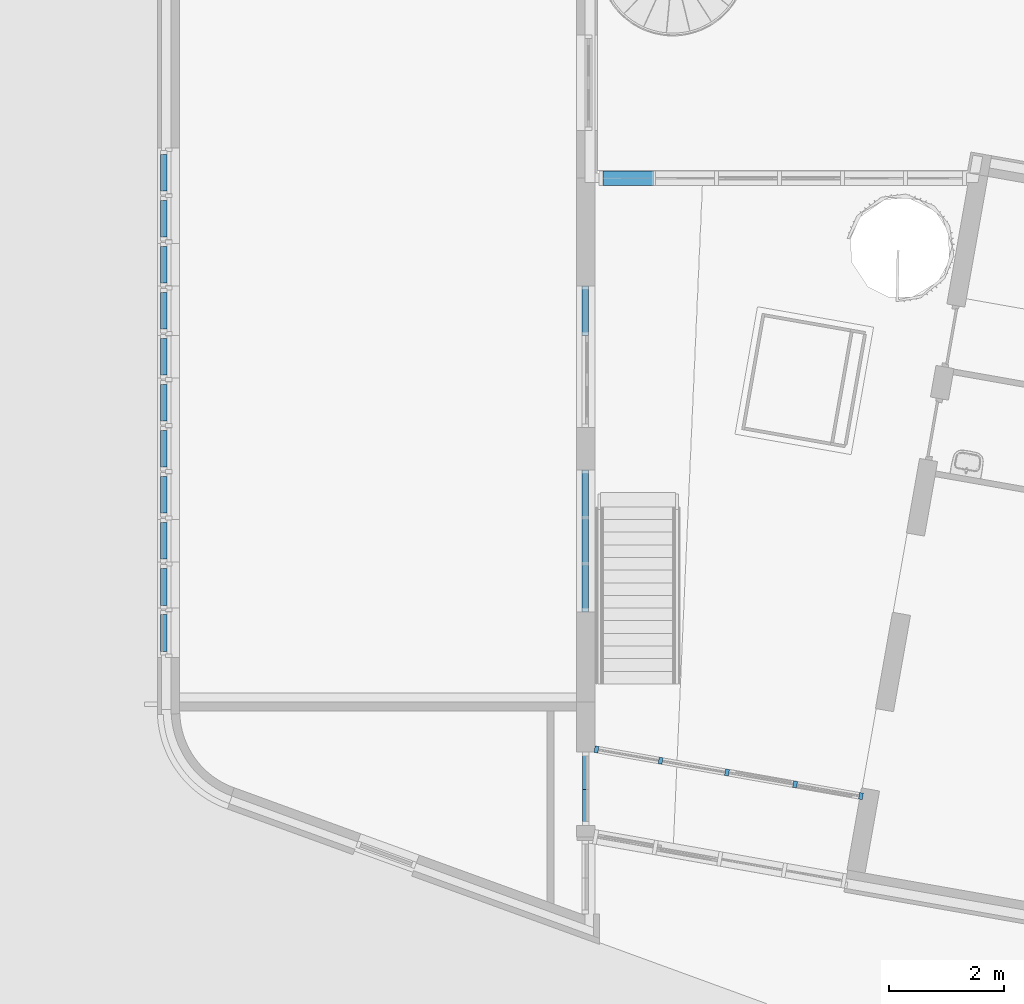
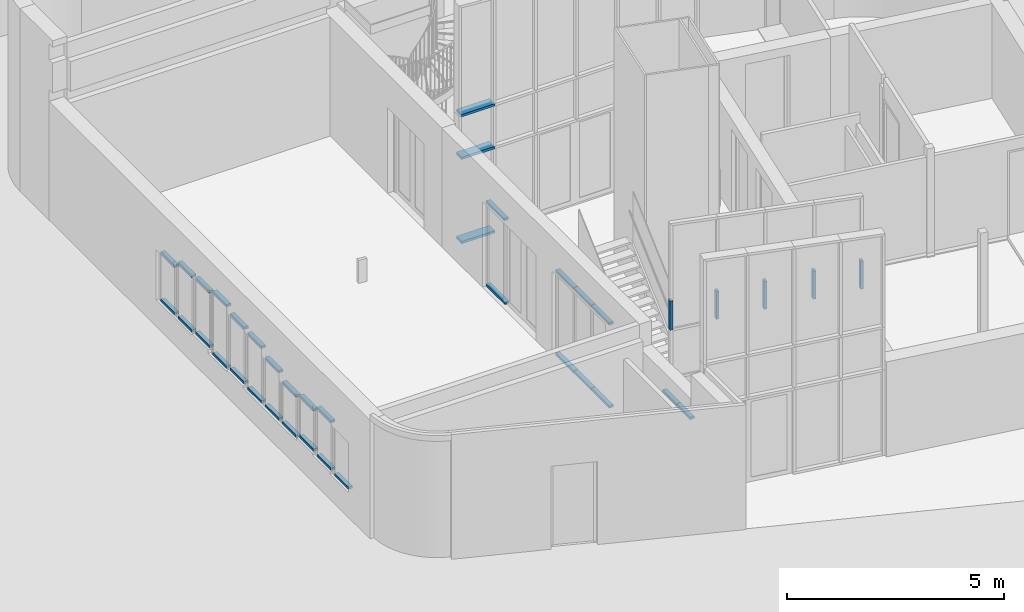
# One storey, part 7 of 21: 39 members, 16 elements without a shape of their own.
"""IFC2X3 building model written with IfcOpenShell, lengths in millimetres."""

from ifc_helpers import new_model, entity, si_unit, converted_unit, derived_unit, direction, frame, origin, origin_2d_with_axis, place, context, subcontext, project, spatial, rectangle, extrude, source, transform, mapped, material, type_object, type_shapes, element, aggregate, save


model = new_model("IFC2X3")

# Units and contexts
model_context = context("Model", 3, precision=0.01, world=origin(), true_north=direction((6.12303176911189e-17, 1.0)))
body_context = subcontext(model_context, "Body", "Model", "MODEL_VIEW")
ifc_project = project(units=[si_unit("LENGTHUNIT", "METRE", prefix="MILLI"), si_unit("AREAUNIT", "SQUARE_METRE"), si_unit("VOLUMEUNIT", "CUBIC_METRE"), converted_unit("PLANEANGLEUNIT", "DEGREE", entity("IfcRatioMeasure", 0.0174532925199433), si_unit("PLANEANGLEUNIT", "RADIAN"), dimensions=[0, 0, 0, 0, 0, 0, 0]), si_unit("MASSUNIT", "GRAM", prefix="KILO"), derived_unit("MASSDENSITYUNIT", [(si_unit("MASSUNIT", "GRAM", prefix="KILO"), 1), (si_unit("LENGTHUNIT", "METRE"), -3)]), derived_unit("MOMENTOFINERTIAUNIT", [(si_unit("LENGTHUNIT", "METRE"), 4)]), si_unit("TIMEUNIT", "SECOND"), si_unit("FREQUENCYUNIT", "HERTZ"), si_unit("THERMODYNAMICTEMPERATUREUNIT", "DEGREE_CELSIUS"), derived_unit("THERMALTRANSMITTANCEUNIT", [(si_unit("MASSUNIT", "GRAM", prefix="KILO"), 1), (si_unit("THERMODYNAMICTEMPERATUREUNIT", "KELVIN"), -1), (si_unit("TIMEUNIT", "SECOND"), -3)]), derived_unit("VOLUMETRICFLOWRATEUNIT", [(si_unit("LENGTHUNIT", "METRE"), 3), (si_unit("TIMEUNIT", "SECOND"), -1)]), si_unit("ELECTRICCURRENTUNIT", "AMPERE"), si_unit("ELECTRICVOLTAGEUNIT", "VOLT"), si_unit("POWERUNIT", "WATT"), si_unit("FORCEUNIT", "NEWTON", prefix="KILO"), si_unit("ILLUMINANCEUNIT", "LUX"), si_unit("LUMINOUSFLUXUNIT", "LUMEN"), si_unit("LUMINOUSINTENSITYUNIT", "CANDELA"), derived_unit("USERDEFINED", [(si_unit("MASSUNIT", "GRAM", prefix="KILO"), -1), (si_unit("LENGTHUNIT", "METRE"), -2), (si_unit("TIMEUNIT", "SECOND"), 3), (si_unit("LUMINOUSFLUXUNIT", "LUMEN"), 1)]), derived_unit("LINEARVELOCITYUNIT", [(si_unit("LENGTHUNIT", "METRE"), 1), (si_unit("TIMEUNIT", "SECOND"), -1)]), si_unit("PRESSUREUNIT", "PASCAL"), derived_unit("USERDEFINED", [(si_unit("LENGTHUNIT", "METRE"), -2), (si_unit("MASSUNIT", "GRAM", prefix="KILO"), 1), (si_unit("TIMEUNIT", "SECOND"), -2)]), derived_unit("LINEARFORCEUNIT", [(si_unit("MASSUNIT", "GRAM", prefix="KILO"), 1), (si_unit("LENGTHUNIT", "METRE"), 1), (si_unit("TIMEUNIT", "SECOND"), -2), (si_unit("LENGTHUNIT", "METRE"), -1)]), derived_unit("PLANARFORCEUNIT", [(si_unit("MASSUNIT", "GRAM", prefix="KILO"), 1), (si_unit("LENGTHUNIT", "METRE"), 1), (si_unit("TIMEUNIT", "SECOND"), -2), (si_unit("LENGTHUNIT", "METRE"), -2)])], contexts=[model_context])

# Site, building, storey
site_placement = place(None, origin())
site = spatial("IfcSite", under=ifc_project, at=site_placement, Name="<Kadaster Gemeente>;<Kadaster nummer>;<Kadaster sectie>", CompositionType="ELEMENT")
building_placement = place(site_placement, origin())
building = spatial("IfcBuilding", under=site, at=building_placement, Name="JRCZ Middelburg", CompositionType="ELEMENT")
storey_placement = place(building_placement, origin())
storey = spatial("IfcBuildingStorey", under=building, at=storey_placement, Name="00 begane grond", CompositionType="ELEMENT", Elevation=0.0)

# Curtain wall, members
curtain_wall_type_1 = type_object("IfcCurtainWallType", Name="Curtain Wall:vliesgevel B", PredefinedType="NOTDEFINED")
curtain_wall_1_placement = place(storey_placement, origin())
curtain_wall_1 = element("IfcCurtainWall", 1, at=curtain_wall_1_placement, inside=storey, type_object=curtain_wall_type_1, Name="Curtain Wall:vliesgevel B", ObjectType="Curtain Wall:vliesgevel B")
ifc_material_1 = material(Name="RBM_i2_binnenkozijn")
member_type_1 = type_object("IfcMemberType", Name="Rectangular Mullion:32_CWM_067x114", PredefinedType="MULLION", material=ifc_material_1)
shared_shape_1 = source(origin(), body_context, "Body", "SweptSolid", [
    extrude(rectangle(XDim=113.999999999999, YDim=67.0, at=origin_2d_with_axis()), frame((-33.5, 0.0, -820.0), z_axis=(0.0, 0.0, 1.0), x_axis=(0.0, -1.0, 0.0)), (0.0, 0.0, 1.0), 820.0),
])
type_shapes(member_type_1, [shared_shape_1])
member_1_placement = place(storey_placement, frame((17362.2500000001, 9178.37735087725, 4422.33333333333), z_axis=(0.0, 0.0, 1.0), x_axis=(-0.984807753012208, 0.173648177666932, 0.0)))
member_1 = element("IfcMember", 2, at=member_1_placement, type_object=member_type_1, material=ifc_material_1, Name="Rectangular Mullion:32_CWM_067x114", ObjectType="Rectangular Mullion:32_CWM_067x114", context=body_context, shape_type="MappedRepresentation", body=[
    mapped(shared_shape_1, transform((0.0, 0.0, 0.0), scale=1.0)),
])
member_type_2 = type_object("IfcMemberType", Name="Rectangular Mullion:32_CWM_067x114", PredefinedType="MULLION", material=ifc_material_1)
shared_shape_2 = source(origin(), body_context, "Body", "SweptSolid", [
    extrude(rectangle(XDim=113.999999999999, YDim=67.0, at=origin_2d_with_axis()), frame((-33.5, 0.0, -786.5), z_axis=(0.0, 0.0, 1.0), x_axis=(0.0, -1.0, 0.0)), (0.0, 0.0, 1.0), 786.5),
])
type_shapes(member_type_2, [shared_shape_2])
member_2_placement = place(storey_placement, frame((22027.0026406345, 8355.85560200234, 3635.83333333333), z_axis=(0.0, 0.0, -1.0), x_axis=(0.984807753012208, -0.173648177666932, 0.0)))
member_2 = element("IfcMember", 3, at=member_2_placement, type_object=member_type_2, material=ifc_material_1, Name="Rectangular Mullion:32_CWM_067x114", ObjectType="Rectangular Mullion:32_CWM_067x114", context=body_context, shape_type="MappedRepresentation", body=[
    mapped(shared_shape_2, transform((0.0, 0.0, 0.0), scale=1.0)),
])
member_type_3 = type_object("IfcMemberType", Name="Rectangular Mullion:32_CWM_067x114", PredefinedType="MULLION", material=ifc_material_1)
shared_shape_3 = source(origin(), body_context, "Body", "SweptSolid", [
    extrude(rectangle(XDim=113.999999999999, YDim=67.0, at=origin_2d_with_axis()), frame((0.0, 0.0, -786.5), z_axis=(0.0, 0.0, 1.0), x_axis=(0.0, -1.0, 0.0)), (0.0, 0.0, 1.0), 786.5),
])
type_shapes(member_type_3, [shared_shape_3])
member_3_placement = place(storey_placement, frame((19664.9206469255, 8772.35438813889, 3635.83333333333), z_axis=(0.0, 0.0, -1.0), x_axis=(0.984807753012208, -0.173648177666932, 0.0)))
member_3 = element("IfcMember", 4, at=member_3_placement, type_object=member_type_3, material=ifc_material_1, Name="Rectangular Mullion:32_CWM_067x114", ObjectType="Rectangular Mullion:32_CWM_067x114", context=body_context, shape_type="MappedRepresentation", body=[
    mapped(shared_shape_3, transform((0.0, 0.0, 0.0), scale=1.0)),
])
member_4_placement = place(storey_placement, frame((18510.4603234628, 8975.91689132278, 3635.83333333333), z_axis=(0.0, 0.0, -1.0), x_axis=(0.984807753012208, -0.173648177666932, 0.0)))
member_4 = element("IfcMember", 5, at=member_4_placement, type_object=member_type_3, material=ifc_material_1, Name="Rectangular Mullion:32_CWM_067x114", ObjectType="Rectangular Mullion:32_CWM_067x114", context=body_context, shape_type="MappedRepresentation", body=[
    mapped(shared_shape_3, transform((0.0, 0.0, 0.0), scale=1.0)),
])
member_5_placement = place(storey_placement, frame((20849.0391680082, 8563.56234451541, 3635.83333333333), z_axis=(0.0, 0.0, -1.0), x_axis=(0.984807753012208, -0.173648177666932, 0.0)))
member_5 = element("IfcMember", 6, at=member_5_placement, type_object=member_type_3, material=ifc_material_1, Name="Rectangular Mullion:32_CWM_067x114", ObjectType="Rectangular Mullion:32_CWM_067x114", context=body_context, shape_type="MappedRepresentation", body=[
    mapped(shared_shape_3, transform((0.0, 0.0, 0.0), scale=1.0)),
])
aggregate(curtain_wall_1, [member_1, member_2, member_3, member_4, member_5])

curtain_wall_type_2 = type_object("IfcCurtainWallType", Name="Curtain Wall:NLRS_32_CW_067x114", PredefinedType="NOTDEFINED")
curtain_wall_2_placement = place(storey_placement, origin())
curtain_wall_2 = element("IfcCurtainWall", 7, at=curtain_wall_2_placement, inside=storey, type_object=curtain_wall_type_2, Name="Curtain Wall:NLRS_32_CW_067x114", ObjectType="Curtain Wall:NLRS_32_CW_067x114")
member_type_4 = type_object("IfcMemberType", Name="Rectangular Mullion:32_CWM_067x114", PredefinedType="MULLION", material=ifc_material_1)
shared_shape_4 = source(origin(), body_context, "Body", "SweptSolid", [
    extrude(rectangle(XDim=113.999999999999, YDim=67.0, at=origin_2d_with_axis()), frame((-33.5, 0.0, -833.5000003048), z_axis=(0.0, 0.0, 1.0), x_axis=(0.0, -1.0, 0.0)), (0.0, 0.0, 1.0), 833.5000003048),
])
type_shapes(member_type_4, [shared_shape_4])
member_6_placement = place(storey_placement, frame((17203.0, 12400.0, 2400.0), z_axis=(0.0, 1.0, 0.0), x_axis=(0.0, 0.0, 1.0)))
member_6 = element("IfcMember", 8, at=member_6_placement, type_object=member_type_4, material=ifc_material_1, Name="Rectangular Mullion:32_CWM_067x114", ObjectType="Rectangular Mullion:32_CWM_067x114", context=body_context, shape_type="MappedRepresentation", body=[
    mapped(shared_shape_4, transform((0.0, 0.0, 0.0), scale=1.0)),
])
member_type_5 = type_object("IfcMemberType", Name="Rectangular Mullion:32_CWM_067x114", PredefinedType="MULLION", material=ifc_material_1)
shared_shape_5 = source(origin(), body_context, "Body", "SweptSolid", [
    extrude(rectangle(XDim=113.999999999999, YDim=67.0, at=origin_2d_with_axis()), frame((-33.5, 0.0, -800.0), z_axis=(0.0, 0.0, 1.0), x_axis=(0.0, -1.0, 0.0)), (0.0, 0.0, 1.0), 800.0),
])
type_shapes(member_type_5, [shared_shape_5])
member_7_placement = place(storey_placement, frame((17203.0, 13200.0, 2400.0), z_axis=(0.0, 1.0, 0.0), x_axis=(0.0, 0.0, 1.0)))
member_7 = element("IfcMember", 9, at=member_7_placement, type_object=member_type_5, material=ifc_material_1, Name="Rectangular Mullion:32_CWM_067x114", ObjectType="Rectangular Mullion:32_CWM_067x114", context=body_context, shape_type="MappedRepresentation", body=[
    mapped(shared_shape_5, transform((0.0, 0.0, 0.0), scale=1.0)),
])
member_type_6 = type_object("IfcMemberType", Name="Rectangular Mullion:32_CWM_067x114", PredefinedType="MULLION", material=ifc_material_1)
shared_shape_6 = source(origin(), body_context, "Body", "SweptSolid", [
    extrude(rectangle(XDim=113.999999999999, YDim=67.0, at=origin_2d_with_axis()), frame((-33.5, 0.0, -833.5000003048), z_axis=(0.0, 0.0, 1.0), x_axis=(0.0, -1.0, 0.0)), (0.0, 0.0, 1.0), 833.5000003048),
])
type_shapes(member_type_6, [shared_shape_6])
member_8_placement = place(storey_placement, frame((17203.0, 11566.4999996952, 0.0), z_axis=(0.0, -1.0, 0.0), x_axis=(0.0, 0.0, -1.0)))
member_8 = element("IfcMember", 10, at=member_8_placement, type_object=member_type_6, material=ifc_material_1, Name="Rectangular Mullion:32_CWM_067x114", ObjectType="Rectangular Mullion:32_CWM_067x114", context=body_context, shape_type="MappedRepresentation", body=[
    mapped(shared_shape_6, transform((0.0, 0.0, 0.0), scale=1.0)),
])
member_type_7 = type_object("IfcMemberType", Name="Rectangular Mullion:32_CWM_067x114", PredefinedType="MULLION", material=ifc_material_1)
shared_shape_7 = source(origin(), body_context, "Body", "SweptSolid", [
    extrude(rectangle(XDim=113.999999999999, YDim=67.0, at=origin_2d_with_axis()), frame((-33.5, 0.0, -800.0), z_axis=(0.0, 0.0, 1.0), x_axis=(0.0, -1.0, 0.0)), (0.0, 0.0, 1.0), 800.0),
])
type_shapes(member_type_7, [shared_shape_7])
member_9_placement = place(storey_placement, frame((17203.0, 12400.0, 0.0), z_axis=(0.0, -1.0, 0.0), x_axis=(0.0, 0.0, -1.0)))
member_9 = element("IfcMember", 11, at=member_9_placement, type_object=member_type_7, material=ifc_material_1, Name="Rectangular Mullion:32_CWM_067x114", ObjectType="Rectangular Mullion:32_CWM_067x114", context=body_context, shape_type="MappedRepresentation", body=[
    mapped(shared_shape_7, transform((0.0, 0.0, 0.0), scale=1.0)),
])
member_type_8 = type_object("IfcMemberType", Name="Rectangular Mullion:32_CWM_067x114", PredefinedType="MULLION", material=ifc_material_1)
shared_shape_8 = source(origin(), body_context, "Body", "SweptSolid", [
    extrude(rectangle(XDim=113.999999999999, YDim=67.0, at=origin_2d_with_axis()), frame((-33.5, 0.0, -833.4999996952), z_axis=(0.0, 0.0, 1.0), x_axis=(0.0, -1.0, 0.0)), (0.0, 0.0, 1.0), 833.4999996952),
])
type_shapes(member_type_8, [shared_shape_8])
member_10_placement = place(storey_placement, frame((17203.0, 13200.0, 0.0), z_axis=(0.0, -1.0, 0.0), x_axis=(0.0, 0.0, -1.0)))
member_10 = element("IfcMember", 12, at=member_10_placement, type_object=member_type_8, material=ifc_material_1, Name="Rectangular Mullion:32_CWM_067x114", ObjectType="Rectangular Mullion:32_CWM_067x114", context=body_context, shape_type="MappedRepresentation", body=[
    mapped(shared_shape_8, transform((0.0, 0.0, 0.0), scale=1.0)),
])
member_type_9 = type_object("IfcMemberType", Name="Rectangular Mullion:32_CWM_067x114", PredefinedType="MULLION", material=ifc_material_1)
shared_shape_9 = source(origin(), body_context, "Body", "SweptSolid", [
    extrude(rectangle(XDim=113.999999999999, YDim=67.0, at=origin_2d_with_axis()), frame((-33.5, 0.0, -833.4999996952), z_axis=(0.0, 0.0, 1.0), x_axis=(0.0, -1.0, 0.0)), (0.0, 0.0, 1.0), 833.4999996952),
])
type_shapes(member_type_9, [shared_shape_9])
member_11_placement = place(storey_placement, frame((17203.0, 14033.5, 2400.0), z_axis=(0.0, 1.0, 0.0), x_axis=(0.0, 0.0, 1.0)))
member_11 = element("IfcMember", 13, at=member_11_placement, type_object=member_type_9, material=ifc_material_1, Name="Rectangular Mullion:32_CWM_067x114", ObjectType="Rectangular Mullion:32_CWM_067x114", context=body_context, shape_type="MappedRepresentation", body=[
    mapped(shared_shape_9, transform((0.0, 0.0, 0.0), scale=1.0)),
])
aggregate(curtain_wall_2, [member_6, member_7, member_8, member_9, member_10, member_11])

curtain_wall_3_placement = place(storey_placement, origin())
curtain_wall_3 = element("IfcCurtainWall", 14, at=curtain_wall_3_placement, inside=storey, type_object=curtain_wall_type_2, Name="Curtain Wall:NLRS_32_CW_067x114", ObjectType="Curtain Wall:NLRS_32_CW_067x114")
member_type_10 = type_object("IfcMemberType", Name="Rectangular Mullion:32_CWM_067x114", PredefinedType="MULLION", material=ifc_material_1)
shared_shape_10 = source(origin(), body_context, "Body", "SweptSolid", [
    extrude(rectangle(XDim=113.999999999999, YDim=67.0, at=origin_2d_with_axis()), frame((-33.5, 0.0, -867.0), z_axis=(0.0, 0.0, 1.0), x_axis=(0.0, -1.0, 0.0)), (0.0, 0.0, 1.0), 867.0),
])
type_shapes(member_type_10, [shared_shape_10])
member_12_placement = place(storey_placement, frame((17203.0, 16366.5, 0.0), z_axis=(0.0, -1.0, 0.0), x_axis=(0.0, 0.0, -1.0)))
member_12 = element("IfcMember", 15, at=member_12_placement, type_object=member_type_10, material=ifc_material_1, Name="Rectangular Mullion:32_CWM_067x114", ObjectType="Rectangular Mullion:32_CWM_067x114", context=body_context, shape_type="MappedRepresentation", body=[
    mapped(shared_shape_10, transform((0.0, 0.0, 0.0), scale=1.0)),
])
member_type_11 = type_object("IfcMemberType", Name="Rectangular Mullion:32_CWM_067x114", PredefinedType="MULLION", material=ifc_material_1)
shared_shape_11 = source(origin(), body_context, "Body", "SweptSolid", [
    extrude(rectangle(XDim=113.999999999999, YDim=67.0, at=origin_2d_with_axis()), frame((-33.5, 0.0, -833.500000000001), z_axis=(0.0, 0.0, 1.0), x_axis=(0.0, -1.0, 0.0)), (0.0, 0.0, 1.0), 833.5),
])
type_shapes(member_type_11, [shared_shape_11])
member_13_placement = place(storey_placement, frame((17203.0, 17233.5, 2400.0), z_axis=(0.0, 1.0, 0.0), x_axis=(0.0, 0.0, 1.0)))
member_13 = element("IfcMember", 16, at=member_13_placement, type_object=member_type_11, material=ifc_material_1, Name="Rectangular Mullion:32_CWM_067x114", ObjectType="Rectangular Mullion:32_CWM_067x114", context=body_context, shape_type="MappedRepresentation", body=[
    mapped(shared_shape_11, transform((0.0, 0.0, 0.0), scale=1.0)),
])
aggregate(curtain_wall_3, [member_12, member_13])

curtain_wall_4_placement = place(storey_placement, origin())
curtain_wall_4 = element("IfcCurtainWall", 17, at=curtain_wall_4_placement, inside=storey, type_object=curtain_wall_type_2, Name="Curtain Wall:NLRS_32_CW_067x114", ObjectType="Curtain Wall:NLRS_32_CW_067x114")
member_type_12 = type_object("IfcMemberType", Name="Rectangular Mullion:32_CWM_067x114", PredefinedType="MULLION", material=ifc_material_1)
shared_shape_12 = source(origin(), body_context, "Body", "SweptSolid", [
    extrude(rectangle(XDim=113.999999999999, YDim=67.0, at=origin_2d_with_axis()), frame((-33.5, 0.0, -655.450461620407), z_axis=(0.0, 0.0, 1.0), x_axis=(0.0, -1.0, 0.0)), (0.0, 0.0, 1.0), 655.450461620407),
])
type_shapes(member_type_12, [shared_shape_12])
member_14_placement = place(storey_placement, frame((17209.2500000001, 9128.74078602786, 2000.0), z_axis=(0.0, 1.0, 0.0), x_axis=(0.0, 0.0, 1.0)))
member_14 = element("IfcMember", 18, at=member_14_placement, type_object=member_type_12, material=ifc_material_1, Name="Rectangular Mullion:32_CWM_067x114", ObjectType="Rectangular Mullion:32_CWM_067x114", context=body_context, shape_type="MappedRepresentation", body=[
    mapped(shared_shape_12, transform((0.0, 0.0, 0.0), scale=1.0)),
])
member_type_13 = type_object("IfcMemberType", Name="Rectangular Mullion:32_CWM_067x114", PredefinedType="MULLION", material=ifc_material_1)
shared_shape_13 = source(origin(), body_context, "Body", "SweptSolid", [
    extrude(rectangle(XDim=113.999999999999, YDim=67.0, at=origin_2d_with_axis()), frame((-33.5, 0.0, -624.549538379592), z_axis=(0.0, 0.0, 1.0), x_axis=(0.0, -1.0, 0.0)), (0.0, 0.0, 1.0), 624.549538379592),
])
type_shapes(member_type_13, [shared_shape_13])
member_15_placement = place(storey_placement, frame((17209.2500000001, 8473.29032440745, 2000.0), z_axis=(0.0, 1.0, 0.0), x_axis=(0.0, 0.0, 1.0)))
member_15 = element("IfcMember", 19, at=member_15_placement, type_object=member_type_13, material=ifc_material_1, Name="Rectangular Mullion:32_CWM_067x114", ObjectType="Rectangular Mullion:32_CWM_067x114", context=body_context, shape_type="MappedRepresentation", body=[
    mapped(shared_shape_13, transform((0.0, 0.0, 0.0), scale=1.0)),
])
aggregate(curtain_wall_4, [member_14, member_15])

# Curtain wall, member
curtain_wall_type_3 = type_object("IfcCurtainWallType", Name="Curtain Wall:NLRS_31_CW_Ontwerpkozijn 067x114 2", PredefinedType="NOTDEFINED")
curtain_wall_5_placement = place(storey_placement, origin())
curtain_wall_5 = element("IfcCurtainWall", 20, at=curtain_wall_5_placement, inside=storey, type_object=curtain_wall_type_3, Name="Curtain Wall:NLRS_31_CW_Ontwerpkozijn 067x114 2", ObjectType="Curtain Wall:NLRS_31_CW_Ontwerpkozijn 067x114 2")
ifc_material_2 = material(Name="RBM_a_kozijn")
member_type_14 = type_object("IfcMemberType", Name="Rectangular Mullion:31_CWM_067x114", PredefinedType="MULLION", material=ifc_material_2)
shared_shape_14 = source(origin(), body_context, "Body", "SweptSolid", [
    extrude(rectangle(XDim=113.999999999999, YDim=67.0, at=origin_2d_with_axis()), frame((-33.5, 57.0, -641.0), z_axis=(0.0, 0.0, 1.0), x_axis=(0.0, -1.0, 0.0)), (0.0, 0.0, 1.0), 640.999999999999),
])
type_shapes(member_type_14, [shared_shape_14])
member_16_placement = place(storey_placement, frame((9931.0, 13279.4999999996, 1900.0), z_axis=(0.0, -1.0, 0.0), x_axis=(0.0, 0.0, 1.0)))
member_16 = element("IfcMember", 21, at=member_16_placement, type_object=member_type_14, material=ifc_material_2, Name="Rectangular Mullion:31_CWM_067x114", ObjectType="Rectangular Mullion:31_CWM_067x114", context=body_context, shape_type="MappedRepresentation", body=[
    mapped(shared_shape_14, transform((0.0, 0.0, 0.0), scale=1.0)),
])

curtain_wall_6_placement = place(storey_placement, origin())
curtain_wall_6 = element("IfcCurtainWall", 22, at=curtain_wall_6_placement, inside=storey, type_object=curtain_wall_type_3, Name="Curtain Wall:NLRS_31_CW_Ontwerpkozijn 067x114 2", ObjectType="Curtain Wall:NLRS_31_CW_Ontwerpkozijn 067x114 2")
member_17_placement = place(storey_placement, frame((9931.0, 14879.4999999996, 2300.0), z_axis=(0.0, -1.0, 0.0), x_axis=(0.0, 0.0, 1.0)))
member_17 = element("IfcMember", 23, at=member_17_placement, type_object=member_type_14, material=ifc_material_2, Name="Rectangular Mullion:31_CWM_067x114", ObjectType="Rectangular Mullion:31_CWM_067x114", context=body_context, shape_type="MappedRepresentation", body=[
    mapped(shared_shape_14, transform((0.0, 0.0, 0.0), scale=1.0)),
])

curtain_wall_7_placement = place(storey_placement, origin())
curtain_wall_7 = element("IfcCurtainWall", 24, at=curtain_wall_7_placement, inside=storey, type_object=curtain_wall_type_3, Name="Curtain Wall:NLRS_31_CW_Ontwerpkozijn 067x114 2", ObjectType="Curtain Wall:NLRS_31_CW_Ontwerpkozijn 067x114 2")
member_18_placement = place(storey_placement, frame((9931.0, 11679.4999999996, 2150.0), z_axis=(0.0, -1.0, 0.0), x_axis=(0.0, 0.0, 1.0)))
member_18 = element("IfcMember", 25, at=member_18_placement, type_object=member_type_14, material=ifc_material_2, Name="Rectangular Mullion:31_CWM_067x114", ObjectType="Rectangular Mullion:31_CWM_067x114", context=body_context, shape_type="MappedRepresentation", body=[
    mapped(shared_shape_14, transform((0.0, 0.0, 0.0), scale=1.0)),
])

curtain_wall_8_placement = place(storey_placement, origin())
curtain_wall_8 = element("IfcCurtainWall", 26, at=curtain_wall_8_placement, inside=storey, type_object=curtain_wall_type_3, Name="Curtain Wall:NLRS_31_CW_Ontwerpkozijn 067x114 2", ObjectType="Curtain Wall:NLRS_31_CW_Ontwerpkozijn 067x114 2")
member_19_placement = place(storey_placement, frame((9931.0, 12479.4999999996, 2000.0), z_axis=(0.0, -1.0, 0.0), x_axis=(0.0, 0.0, 1.0)))
member_19 = element("IfcMember", 27, at=member_19_placement, type_object=member_type_14, material=ifc_material_2, Name="Rectangular Mullion:31_CWM_067x114", ObjectType="Rectangular Mullion:31_CWM_067x114", context=body_context, shape_type="MappedRepresentation", body=[
    mapped(shared_shape_14, transform((0.0, 0.0, 0.0), scale=1.0)),
])

curtain_wall_9_placement = place(storey_placement, origin())
curtain_wall_9 = element("IfcCurtainWall", 28, at=curtain_wall_9_placement, inside=storey, type_object=curtain_wall_type_3, Name="Curtain Wall:NLRS_31_CW_Ontwerpkozijn 067x114 2", ObjectType="Curtain Wall:NLRS_31_CW_Ontwerpkozijn 067x114 2")
member_20_placement = place(storey_placement, frame((9931.0, 14079.4999999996, 2100.0), z_axis=(0.0, -1.0, 0.0), x_axis=(0.0, 0.0, 1.0)))
member_20 = element("IfcMember", 29, at=member_20_placement, type_object=member_type_14, material=ifc_material_2, Name="Rectangular Mullion:31_CWM_067x114", ObjectType="Rectangular Mullion:31_CWM_067x114", context=body_context, shape_type="MappedRepresentation", body=[
    mapped(shared_shape_14, transform((0.0, 0.0, 0.0), scale=1.0)),
])

curtain_wall_10_placement = place(storey_placement, origin())
curtain_wall_10 = element("IfcCurtainWall", 30, at=curtain_wall_10_placement, inside=storey, type_object=curtain_wall_type_3, Name="Curtain Wall:NLRS_31_CW_Ontwerpkozijn 067x114 2", ObjectType="Curtain Wall:NLRS_31_CW_Ontwerpkozijn 067x114 2")
member_21_placement = place(storey_placement, frame((9931.0, 15679.4999999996, 2350.0), z_axis=(0.0, -1.0, 0.0), x_axis=(0.0, 0.0, 1.0)))
member_21 = element("IfcMember", 31, at=member_21_placement, type_object=member_type_14, material=ifc_material_2, Name="Rectangular Mullion:31_CWM_067x114", ObjectType="Rectangular Mullion:31_CWM_067x114", context=body_context, shape_type="MappedRepresentation", body=[
    mapped(shared_shape_14, transform((0.0, 0.0, 0.0), scale=1.0)),
])

curtain_wall_11_placement = place(storey_placement, origin())
curtain_wall_11 = element("IfcCurtainWall", 32, at=curtain_wall_11_placement, inside=storey, type_object=curtain_wall_type_3, Name="Curtain Wall:NLRS_31_CW_Ontwerpkozijn 067x114 2", ObjectType="Curtain Wall:NLRS_31_CW_Ontwerpkozijn 067x114 2")
member_22_placement = place(storey_placement, frame((9931.0, 16479.4999999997, 2500.0), z_axis=(0.0, -1.0, 0.0), x_axis=(0.0, 0.0, 1.0)))
member_22 = element("IfcMember", 33, at=member_22_placement, type_object=member_type_14, material=ifc_material_2, Name="Rectangular Mullion:31_CWM_067x114", ObjectType="Rectangular Mullion:31_CWM_067x114", context=body_context, shape_type="MappedRepresentation", body=[
    mapped(shared_shape_14, transform((0.0, 0.0, 0.0), scale=1.0)),
])

curtain_wall_12_placement = place(storey_placement, origin())
curtain_wall_12 = element("IfcCurtainWall", 34, at=curtain_wall_12_placement, inside=storey, type_object=curtain_wall_type_3, Name="Curtain Wall:NLRS_31_CW_Ontwerpkozijn 067x114 2", ObjectType="Curtain Wall:NLRS_31_CW_Ontwerpkozijn 067x114 2")
member_23_placement = place(storey_placement, frame((9931.0, 18079.4999999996, 2350.0), z_axis=(0.0, -1.0, 0.0), x_axis=(0.0, 0.0, 1.0)))
member_23 = element("IfcMember", 35, at=member_23_placement, type_object=member_type_14, material=ifc_material_2, Name="Rectangular Mullion:31_CWM_067x114", ObjectType="Rectangular Mullion:31_CWM_067x114", context=body_context, shape_type="MappedRepresentation", body=[
    mapped(shared_shape_14, transform((0.0, 0.0, 0.0), scale=1.0)),
])

curtain_wall_13_placement = place(storey_placement, origin())
curtain_wall_13 = element("IfcCurtainWall", 36, at=curtain_wall_13_placement, inside=storey, type_object=curtain_wall_type_3, Name="Curtain Wall:NLRS_31_CW_Ontwerpkozijn 067x114 2", ObjectType="Curtain Wall:NLRS_31_CW_Ontwerpkozijn 067x114 2")
member_24_placement = place(storey_placement, frame((9931.0, 18879.4999999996, 2150.0), z_axis=(0.0, -1.0, 0.0), x_axis=(0.0, 0.0, 1.0)))
member_24 = element("IfcMember", 37, at=member_24_placement, type_object=member_type_14, material=ifc_material_2, Name="Rectangular Mullion:31_CWM_067x114", ObjectType="Rectangular Mullion:31_CWM_067x114", context=body_context, shape_type="MappedRepresentation", body=[
    mapped(shared_shape_14, transform((0.0, 0.0, 0.0), scale=1.0)),
])

curtain_wall_14_placement = place(storey_placement, origin())
curtain_wall_14 = element("IfcCurtainWall", 38, at=curtain_wall_14_placement, inside=storey, type_object=curtain_wall_type_3, Name="Curtain Wall:NLRS_31_CW_Ontwerpkozijn 067x114 2", ObjectType="Curtain Wall:NLRS_31_CW_Ontwerpkozijn 067x114 2")
member_25_placement = place(storey_placement, frame((9931.0, 17279.4999999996, 2400.0), z_axis=(0.0, -1.0, 0.0), x_axis=(0.0, 0.0, 1.0)))
member_25 = element("IfcMember", 39, at=member_25_placement, type_object=member_type_14, material=ifc_material_2, Name="Rectangular Mullion:31_CWM_067x114", ObjectType="Rectangular Mullion:31_CWM_067x114", context=body_context, shape_type="MappedRepresentation", body=[
    mapped(shared_shape_14, transform((0.0, 0.0, 0.0), scale=1.0)),
])

# Member
member_type_15 = type_object("IfcMemberType", Name="Rectangular Mullion:31_CWM_067x114", PredefinedType="MULLION", material=ifc_material_2)
shared_shape_15 = source(origin(), body_context, "Body", "SweptSolid", [
    extrude(rectangle(XDim=113.999999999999, YDim=67.0, at=origin_2d_with_axis()), frame((-33.5, 57.0, -641.0), z_axis=(0.0, 0.0, 1.0), x_axis=(0.0, -1.0, 0.0)), (0.0, 0.0, 1.0), 640.999999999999),
])
type_shapes(member_type_15, [shared_shape_15])
member_26_placement = place(storey_placement, frame((9931.0, 13920.4999999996, 700.0), z_axis=(0.0, 1.0, 0.0), x_axis=(0.0, 0.0, -1.0)))
member_26 = element("IfcMember", 40, at=member_26_placement, type_object=member_type_15, material=ifc_material_2, Name="Rectangular Mullion:31_CWM_067x114", ObjectType="Rectangular Mullion:31_CWM_067x114", context=body_context, shape_type="MappedRepresentation", body=[
    mapped(shared_shape_15, transform((0.0, 0.0, 0.0), scale=1.0)),
])

aggregate(curtain_wall_5, [member_16, member_26])

member_27_placement = place(storey_placement, frame((9931.0, 15520.4999999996, 700.0), z_axis=(0.0, 1.0, 0.0), x_axis=(0.0, 0.0, -1.0)))
member_27 = element("IfcMember", 41, at=member_27_placement, type_object=member_type_15, material=ifc_material_2, Name="Rectangular Mullion:31_CWM_067x114", ObjectType="Rectangular Mullion:31_CWM_067x114", context=body_context, shape_type="MappedRepresentation", body=[
    mapped(shared_shape_15, transform((0.0, 0.0, 0.0), scale=1.0)),
])

aggregate(curtain_wall_6, [member_17, member_27])

# Curtain wall, member
curtain_wall_15_placement = place(storey_placement, origin())
curtain_wall_15 = element("IfcCurtainWall", 42, at=curtain_wall_15_placement, inside=storey, type_object=curtain_wall_type_3, Name="Curtain Wall:NLRS_31_CW_Ontwerpkozijn 067x114 2", ObjectType="Curtain Wall:NLRS_31_CW_Ontwerpkozijn 067x114 2")
member_28_placement = place(storey_placement, frame((9931.0, 11520.4999999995, 700.0), z_axis=(0.0, 1.0, 0.0), x_axis=(0.0, 0.0, -1.0)))
member_28 = element("IfcMember", 43, at=member_28_placement, type_object=member_type_15, material=ifc_material_2, Name="Rectangular Mullion:31_CWM_067x114", ObjectType="Rectangular Mullion:31_CWM_067x114", context=body_context, shape_type="MappedRepresentation", body=[
    mapped(shared_shape_15, transform((0.0, 0.0, 0.0), scale=1.0)),
])
aggregate(curtain_wall_15, [member_28])

# Member
member_29_placement = place(storey_placement, frame((9931.0, 12320.4999999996, 750.0), z_axis=(0.0, 1.0, 0.0), x_axis=(0.0, 0.0, -1.0)))
member_29 = element("IfcMember", 44, at=member_29_placement, type_object=member_type_15, material=ifc_material_2, Name="Rectangular Mullion:31_CWM_067x114", ObjectType="Rectangular Mullion:31_CWM_067x114", context=body_context, shape_type="MappedRepresentation", body=[
    mapped(shared_shape_15, transform((0.0, 0.0, 0.0), scale=1.0)),
])

aggregate(curtain_wall_7, [member_18, member_29])

member_30_placement = place(storey_placement, frame((9931.0, 13120.4999999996, 800.0), z_axis=(0.0, 1.0, 0.0), x_axis=(0.0, 0.0, -1.0)))
member_30 = element("IfcMember", 45, at=member_30_placement, type_object=member_type_15, material=ifc_material_2, Name="Rectangular Mullion:31_CWM_067x114", ObjectType="Rectangular Mullion:31_CWM_067x114", context=body_context, shape_type="MappedRepresentation", body=[
    mapped(shared_shape_15, transform((0.0, 0.0, 0.0), scale=1.0)),
])

aggregate(curtain_wall_8, [member_19, member_30])

member_31_placement = place(storey_placement, frame((9931.0, 14720.4999999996, 700.0), z_axis=(0.0, 1.0, 0.0), x_axis=(0.0, 0.0, -1.0)))
member_31 = element("IfcMember", 46, at=member_31_placement, type_object=member_type_15, material=ifc_material_2, Name="Rectangular Mullion:31_CWM_067x114", ObjectType="Rectangular Mullion:31_CWM_067x114", context=body_context, shape_type="MappedRepresentation", body=[
    mapped(shared_shape_15, transform((0.0, 0.0, 0.0), scale=1.0)),
])

aggregate(curtain_wall_9, [member_20, member_31])

member_32_placement = place(storey_placement, frame((9931.0, 16320.4999999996, 750.0), z_axis=(0.0, 1.0, 0.0), x_axis=(0.0, 0.0, -1.0)))
member_32 = element("IfcMember", 47, at=member_32_placement, type_object=member_type_15, material=ifc_material_2, Name="Rectangular Mullion:31_CWM_067x114", ObjectType="Rectangular Mullion:31_CWM_067x114", context=body_context, shape_type="MappedRepresentation", body=[
    mapped(shared_shape_15, transform((0.0, 0.0, 0.0), scale=1.0)),
])

aggregate(curtain_wall_10, [member_21, member_32])

member_33_placement = place(storey_placement, frame((9931.0, 17120.4999999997, 700.0), z_axis=(0.0, 1.0, 0.0), x_axis=(0.0, 0.0, -1.0)))
member_33 = element("IfcMember", 48, at=member_33_placement, type_object=member_type_15, material=ifc_material_2, Name="Rectangular Mullion:31_CWM_067x114", ObjectType="Rectangular Mullion:31_CWM_067x114", context=body_context, shape_type="MappedRepresentation", body=[
    mapped(shared_shape_15, transform((0.0, 0.0, 0.0), scale=1.0)),
])

aggregate(curtain_wall_11, [member_22, member_33])

member_34_placement = place(storey_placement, frame((9931.0, 18720.4999999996, 750.0), z_axis=(0.0, 1.0, 0.0), x_axis=(0.0, 0.0, -1.0)))
member_34 = element("IfcMember", 49, at=member_34_placement, type_object=member_type_15, material=ifc_material_2, Name="Rectangular Mullion:31_CWM_067x114", ObjectType="Rectangular Mullion:31_CWM_067x114", context=body_context, shape_type="MappedRepresentation", body=[
    mapped(shared_shape_15, transform((0.0, 0.0, 0.0), scale=1.0)),
])

aggregate(curtain_wall_12, [member_23, member_34])

member_35_placement = place(storey_placement, frame((9931.0, 19520.4999999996, 750.0), z_axis=(0.0, 1.0, 0.0), x_axis=(0.0, 0.0, -1.0)))
member_35 = element("IfcMember", 50, at=member_35_placement, type_object=member_type_15, material=ifc_material_2, Name="Rectangular Mullion:31_CWM_067x114", ObjectType="Rectangular Mullion:31_CWM_067x114", context=body_context, shape_type="MappedRepresentation", body=[
    mapped(shared_shape_15, transform((0.0, 0.0, 0.0), scale=1.0)),
])

aggregate(curtain_wall_13, [member_24, member_35])

member_36_placement = place(storey_placement, frame((9931.0, 17920.4999999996, 800.0), z_axis=(0.0, 1.0, 0.0), x_axis=(0.0, 0.0, -1.0)))
member_36 = element("IfcMember", 51, at=member_36_placement, type_object=member_type_15, material=ifc_material_2, Name="Rectangular Mullion:31_CWM_067x114", ObjectType="Rectangular Mullion:31_CWM_067x114", context=body_context, shape_type="MappedRepresentation", body=[
    mapped(shared_shape_15, transform((0.0, 0.0, 0.0), scale=1.0)),
])

aggregate(curtain_wall_14, [member_25, member_36])

# Curtain wall, members
curtain_wall_type_4 = type_object("IfcCurtainWallType", Name="Curtain Wall:Vliesgevel C", PredefinedType="NOTDEFINED")
curtain_wall_16_placement = place(storey_placement, origin())
curtain_wall_16 = element("IfcCurtainWall", 52, at=curtain_wall_16_placement, inside=storey, type_object=curtain_wall_type_4, Name="Curtain Wall:Vliesgevel C", ObjectType="Curtain Wall:Vliesgevel C")
ifc_material_3 = material(Name="RBM_a_kozijn licht")
member_type_16 = type_object("IfcMemberType", Name="Rectangular Mullion:31_CWM_067x114 vliesgevel", PredefinedType="MULLION", material=ifc_material_3)
shared_shape_16 = source(origin(), body_context, "Body", "SweptSolid", [
    extrude(rectangle(XDim=250.0, YDim=67.0, at=origin_2d_with_axis()), frame((-33.5, -57.0, -879.487756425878), z_axis=(0.0, 0.0, 1.0), x_axis=(0.0, -1.0, 0.0)), (0.0, 0.0, 1.0), 879.487756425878),
])
type_shapes(member_type_16, [shared_shape_16])
member_37_placement = place(storey_placement, frame((17506.9418785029, 19046.62338787, 0.0), z_axis=(-1.0, 0.0, 0.0), x_axis=(0.0, 0.0, -1.0)))
member_37 = element("IfcMember", 53, at=member_37_placement, type_object=member_type_16, material=ifc_material_3, Name="Rectangular Mullion:31_CWM_067x114 vliesgevel", ObjectType="Rectangular Mullion:31_CWM_067x114 vliesgevel", context=body_context, shape_type="MappedRepresentation", body=[
    mapped(shared_shape_16, transform((0.0, 0.0, 0.0), scale=1.0)),
])
member_type_17 = type_object("IfcMemberType", Name="Rectangular Mullion:31_CWM_067x114 vliesgevel", PredefinedType="MULLION", material=ifc_material_3)
shared_shape_17 = source(origin(), body_context, "Body", "SweptSolid", [
    extrude(rectangle(XDim=250.0, YDim=67.0, at=origin_2d_with_axis()), frame((0.0, -57.0, -879.487756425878), z_axis=(0.0, 0.0, 1.0), x_axis=(0.0, -1.0, 0.0)), (0.0, 0.0, 1.0), 879.487756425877),
])
type_shapes(member_type_17, [shared_shape_17])
member_38_placement = place(storey_placement, frame((18386.4296349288, 19046.62338787, 2400.0), z_axis=(1.0, 0.0, 0.0), x_axis=(0.0, 0.0, 1.0)))
member_38 = element("IfcMember", 54, at=member_38_placement, type_object=member_type_17, material=ifc_material_3, Name="Rectangular Mullion:31_CWM_067x114 vliesgevel", ObjectType="Rectangular Mullion:31_CWM_067x114 vliesgevel", context=body_context, shape_type="MappedRepresentation", body=[
    mapped(shared_shape_17, transform((0.0, 0.0, 0.0), scale=1.0)),
])
member_39_placement = place(storey_placement, frame((18386.4296349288, 19046.62338787, 3600.0), z_axis=(1.0, 0.0, 0.0), x_axis=(0.0, 0.0, 1.0)))
member_39 = element("IfcMember", 55, at=member_39_placement, type_object=member_type_17, material=ifc_material_3, Name="Rectangular Mullion:31_CWM_067x114 vliesgevel", ObjectType="Rectangular Mullion:31_CWM_067x114 vliesgevel", context=body_context, shape_type="MappedRepresentation", body=[
    mapped(shared_shape_17, transform((0.0, 0.0, 0.0), scale=1.0)),
])
aggregate(curtain_wall_16, [member_37, member_38, member_39])

save(model, "model.ifc")
